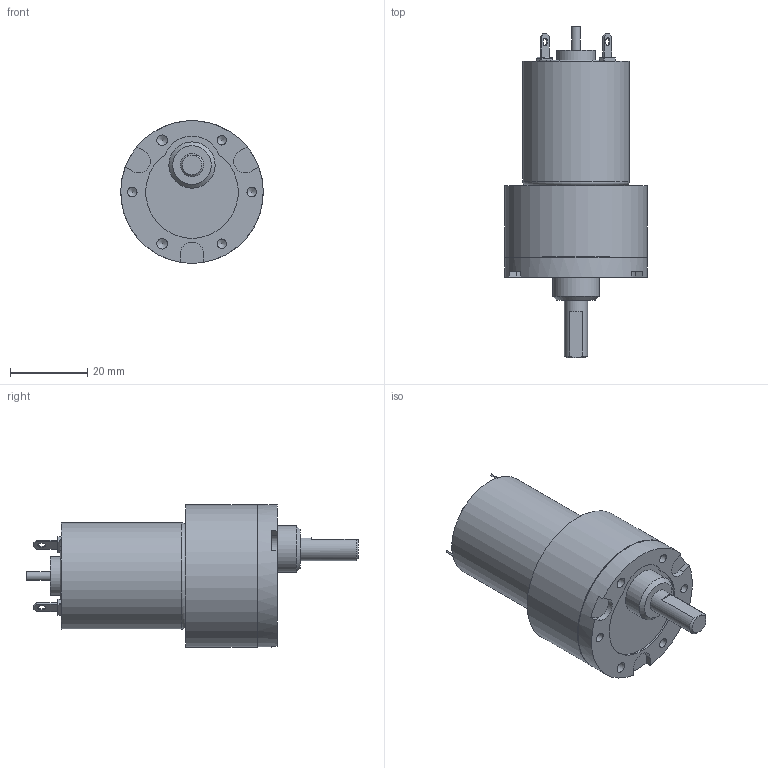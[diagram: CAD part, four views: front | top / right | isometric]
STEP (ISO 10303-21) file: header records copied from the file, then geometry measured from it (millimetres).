
FILE_DESCRIPTION((''),'2;1');
FILE_NAME('C:\Documents and Settings\SSEGAWA\デスクトップ\TP-2732D-KS-3.STP','2013-07-01T13:29:28',('SSEGAWA'),(''),'Autodesk Inventor 2010','Autodesk Inventor 2010','');
FILE_SCHEMA(('CONFIG_CONTROL_DESIGN'));
Length unit declared in the file: millimetre
Products named in the file (3): tp_2732def_ks_3; ks_3; tp_2732d,e,f
Assembly tree (2 placements, depth 2):
  tp_2732def_ks_3
    ks_3
    tp_2732d,e,f
Bounding box: 37 x 86.2 x 37 mm (x, y, z)
Volume: 45852.3 mm3; surface area: 10489 mm2
Topology: 3 solids, 3 shells, 162 faces, 364 edges, 233 vertices
Faces by surface type: plane 95, cylinder 36, bspline 25, torus 4, cone 2
Full cylindrical faces by diameter (mm): 2 x2, 2.305 x2, 2.5 x5, 6 x1, 9 x2, 10 x2, 12 x1, 19 x1, 26.7 x1, 27.7 x1, 36.6 x1, 37 x2
Entity records: 4421 total; most frequent: CARTESIAN_POINT 1013, DIRECTION 695, ORIENTED_EDGE 604, EDGE_CURVE 302, AXIS2_PLACEMENT_3D 253, EDGE_LOOP 233, VERTEX_POINT 213, VECTOR 189
